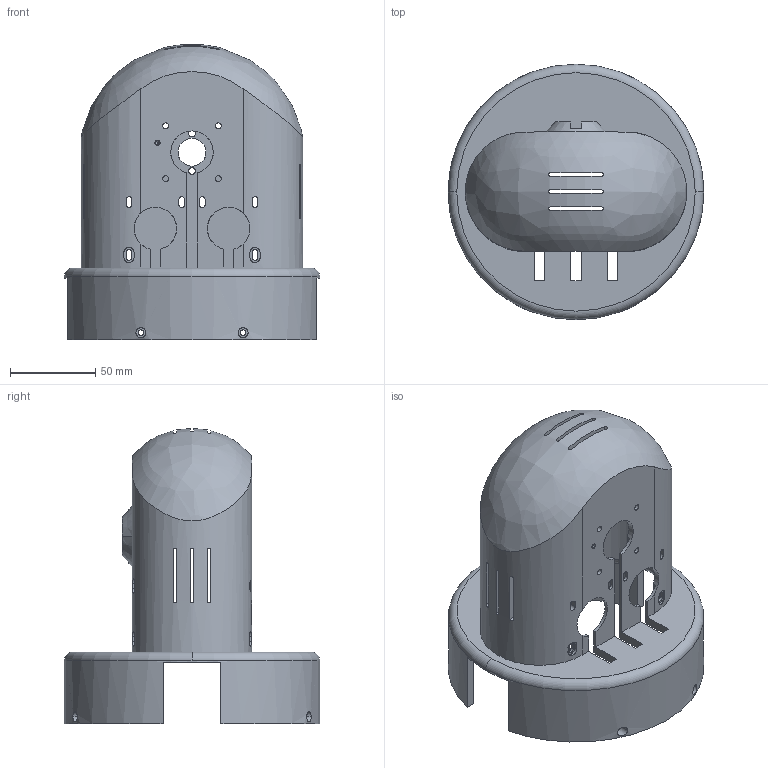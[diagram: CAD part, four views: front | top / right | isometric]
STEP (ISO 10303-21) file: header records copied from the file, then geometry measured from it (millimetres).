
FILE_DESCRIPTION((''),'2;1');
FILE_NAME('ART1BODY_V2','2022-08-24T09:17:28',('domen.bizjak'),('Audax d.o.o.'),'CREO PARAMETRIC BY PTC INC, 2021184','CREO PARAMETRIC BY PTC INC, 2021184','');
FILE_SCHEMA(('AP242_MANAGED_MODEL_BASED_3D_ENGINEERING_MIM_LF { 1 0 10303 442 1 1 4 }'));
Length unit declared in the file: millimetre
Products named in the file (1): ART1BODY_V2
Bounding box: 150 x 150 x 173.3 mm (x, y, z)
Volume: 329472.9 mm3; surface area: 139079.5 mm2
Topology: 1 solids, 2 shells, 278 faces, 927 edges, 677 vertices
Faces by surface type: plane 142, cylinder 126, torus 4, cone 4, bspline 2
Entity records: 14891 total; most frequent: CARTESIAN_POINT 2885, ORIENTED_EDGE 1764, DIRECTION 1699, PRESENTATION_STYLE_ASSIGNMENT 943, STYLED_ITEM 936, CURVE_STYLE 929, EDGE_CURVE 884, VERTEX_POINT 617
